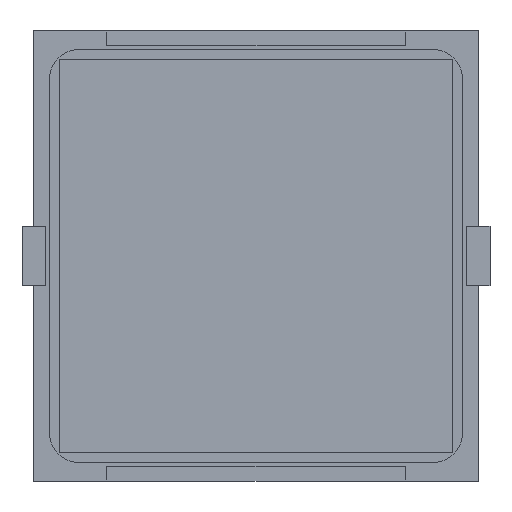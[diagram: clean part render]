
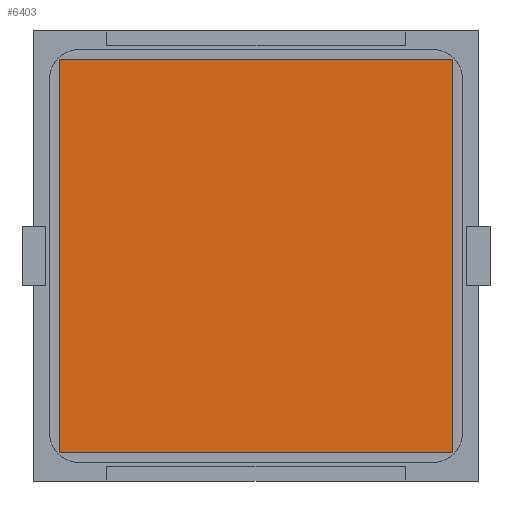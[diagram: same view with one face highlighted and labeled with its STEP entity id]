
A CAD part, front view. The second image highlights one B-rep face of the part: STEP entity #6403.
In plain terms, the highlighted planar face has unit normal (0, -1, 0).
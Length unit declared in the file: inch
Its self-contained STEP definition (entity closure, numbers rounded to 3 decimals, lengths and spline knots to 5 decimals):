
#430 = VERTEX_POINT ( 'NONE', #4101 ) ;
#480 = CARTESIAN_POINT ( 'NONE',  ( -0.64961, -0.005, 0.64961 ) ) ;
#583 = DIRECTION ( 'NONE',  ( 0., 1., 0. ) ) ;
#642 = EDGE_CURVE ( 'NONE', #9081, #6701, #7866, .T. ) ;
#679 = EDGE_CURVE ( 'NONE', #430, #9081, #5820, .T. ) ;
#1174 = CARTESIAN_POINT ( 'NONE',  ( -0.64961, -0.005, -0.64961 ) ) ;
#2439 = LINE ( 'NONE', #9817, #2613 ) ;
#2613 = VECTOR ( 'NONE', #3910, 39.37008 ) ;
#3000 = FACE_OUTER_BOUND ( 'NONE', #3594, .T. ) ;
#3079 = CARTESIAN_POINT ( 'NONE',  ( -0.64961, -0.005, 0.64961 ) ) ;
#3594 = EDGE_LOOP ( 'NONE', ( #6592, #4053, #7043, #4180 ) ) ;
#3659 = DIRECTION ( 'NONE',  ( -1., 0., 0. ) ) ;
#3826 = VERTEX_POINT ( 'NONE', #7575 ) ;
#3910 = DIRECTION ( 'NONE',  ( 0., 0., -1. ) ) ;
#4053 = ORIENTED_EDGE ( 'NONE', *, *, #5343, .F. ) ;
#4101 = CARTESIAN_POINT ( 'NONE',  ( -0.64961, -0.005, -0.64961 ) ) ;
#4180 = ORIENTED_EDGE ( 'NONE', *, *, #642, .F. ) ;
#4461 = LINE ( 'NONE', #1174, #10085 ) ;
#4687 = EDGE_CURVE ( 'NONE', #6701, #3826, #2439, .T. ) ;
#5343 = EDGE_CURVE ( 'NONE', #3826, #430, #4461, .T. ) ;
#5498 = CARTESIAN_POINT ( 'NONE',  ( -0.64961, -0.005, 0.64961 ) ) ;
#5820 = LINE ( 'NONE', #9268, #8007 ) ;
#6132 = DIRECTION ( 'NONE',  ( 0., 0., 1. ) ) ;
#6403 = ADVANCED_FACE ( 'NONE', ( #3000 ), #10340, .F. ) ;
#6592 = ORIENTED_EDGE ( 'NONE', *, *, #679, .F. ) ;
#6701 = VERTEX_POINT ( 'NONE', #8081 ) ;
#6891 = DIRECTION ( 'NONE',  ( 1., 0., 0. ) ) ;
#7043 = ORIENTED_EDGE ( 'NONE', *, *, #4687, .F. ) ;
#7575 = CARTESIAN_POINT ( 'NONE',  ( 0.64961, -0.005, -0.64961 ) ) ;
#7866 = LINE ( 'NONE', #480, #8690 ) ;
#8007 = VECTOR ( 'NONE', #9087, 39.37008 ) ;
#8081 = CARTESIAN_POINT ( 'NONE',  ( 0.64961, -0.005, 0.64961 ) ) ;
#8690 = VECTOR ( 'NONE', #6891, 39.37008 ) ;
#9081 = VERTEX_POINT ( 'NONE', #3079 ) ;
#9087 = DIRECTION ( 'NONE',  ( 0., 0., 1. ) ) ;
#9268 = CARTESIAN_POINT ( 'NONE',  ( -0.64961, -0.005, -0.64961 ) ) ;
#9817 = CARTESIAN_POINT ( 'NONE',  ( 0.64961, -0.005, -0.64961 ) ) ;
#9928 = AXIS2_PLACEMENT_3D ( 'NONE', #5498, #583, #6132 ) ;
#10085 = VECTOR ( 'NONE', #3659, 39.37008 ) ;
#10340 = PLANE ( 'NONE',  #9928 ) ;
